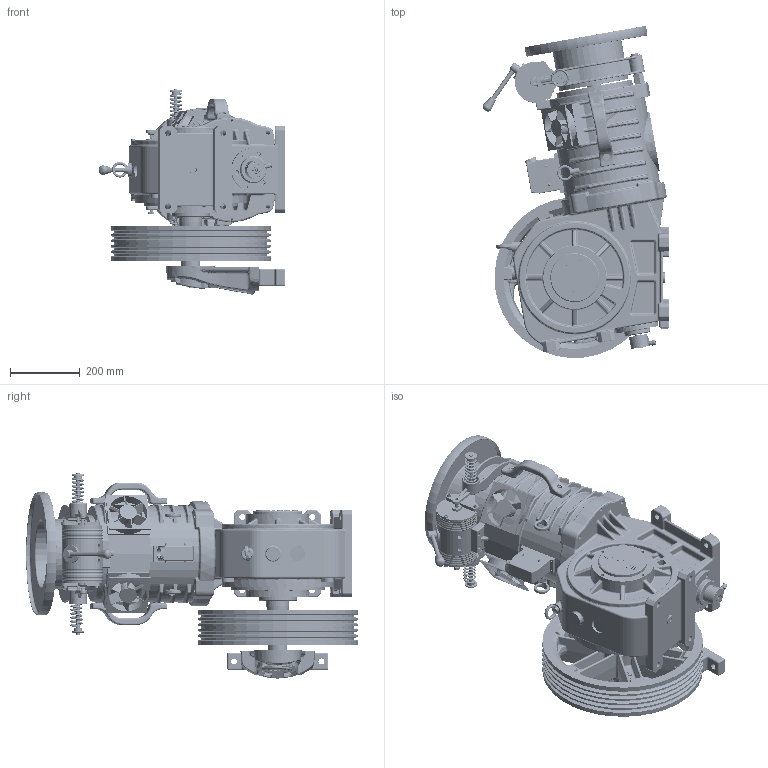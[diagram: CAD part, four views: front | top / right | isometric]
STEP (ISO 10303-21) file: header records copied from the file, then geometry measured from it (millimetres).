
FILE_DESCRIPTION (( 'STEP AP214' ), '1' );
FILE_NAME ('STL5504021.STEP', '2026-01-21T09:24:59', ( '' ), ( '' ), 'SwSTEP 2.0', 'SolidWorks 2023', '' );
FILE_SCHEMA (( 'AUTOMOTIVE_DESIGN' ));
Length unit declared in the file: millimetre
Products named in the file (1): STL5504021
Bounding box: 535.61 x 950.6 x 587.91 mm (x, y, z)
Volume: 59149536 mm3; surface area: 4106751.7 mm2
Topology: 38 solids, 63 shells, 6986 faces, 16542 edges, 9683 vertices
Faces by surface type: cylinder 2378, plane 1620, bspline 1337, torus 707, sphere 513, cone 431
Entity records: 280595 total; most frequent: CARTESIAN_POINT 129228, ORIENTED_EDGE 32622, DIRECTION 30906, EDGE_CURVE 16311, AXIS2_PLACEMENT_3D 12832, VERTEX_POINT 9645, EDGE_LOOP 7458, CIRCLE 7182
